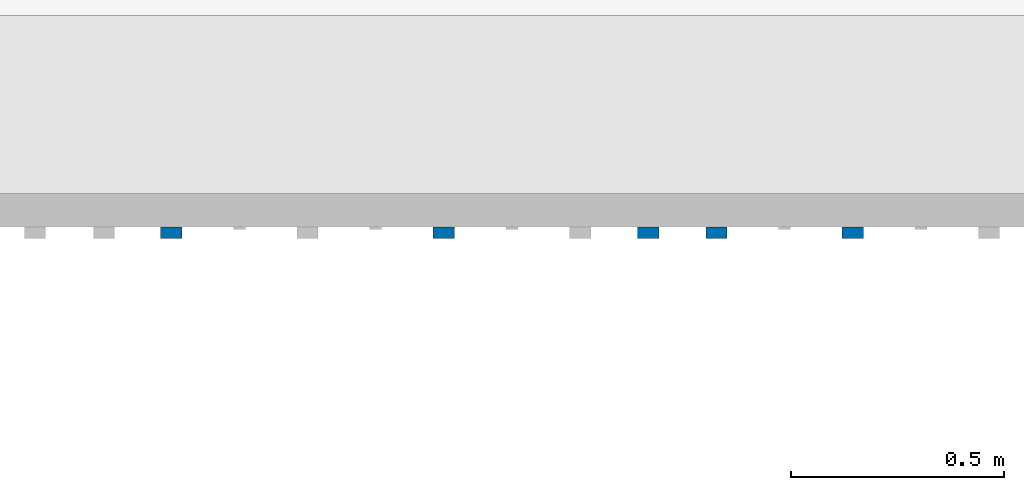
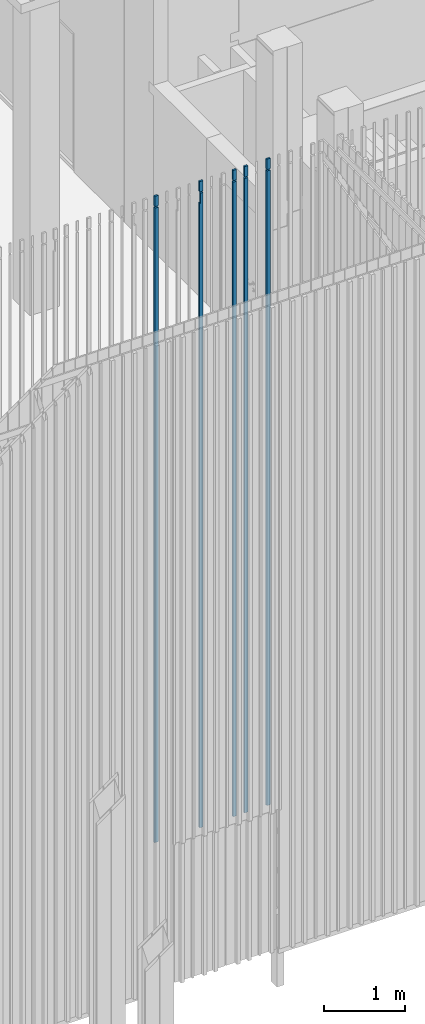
# One storey, part 101 of 390: 5 walls.
"""IFC2X3 building model written with IfcOpenShell, lengths in millimetres."""

from ifc_helpers import new_model, entity, si_unit, converted_unit, derived_unit, money_unit, direction, frame, origin_with_axes, place, context, subcontext, project, spatial, faceted_brep, material, material_list, type_object, element, save


model = new_model("IFC2X3")

# Units and contexts
model_context = context("Model", 3, precision=1e-05, world=origin_with_axes(), true_north=direction((0.0, 1.0)))
body_context = subcontext(model_context, "Body", "Model", "MODEL_VIEW")
ifc_project = project(units=[si_unit("LENGTHUNIT", "METRE", prefix="MILLI"), si_unit("AREAUNIT", "SQUARE_METRE"), si_unit("VOLUMEUNIT", "CUBIC_METRE"), converted_unit("PLANEANGLEUNIT", "DEGREE", entity("IfcPlaneAngleMeasure", 0.0174532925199), si_unit("PLANEANGLEUNIT", "RADIAN"), dimensions=[0, 0, 0, 0, 0, 0, 0]), si_unit("SOLIDANGLEUNIT", "STERADIAN"), money_unit("EUR"), converted_unit("TIMEUNIT", "Year", entity("IfcTimeMeasure", 31556926.0), si_unit("TIMEUNIT", "SECOND"), dimensions=[0, 0, 1, 0, 0, 0, 0]), si_unit("MASSUNIT", "GRAM", prefix="KILO"), si_unit("THERMODYNAMICTEMPERATUREUNIT", "DEGREE_CELSIUS"), si_unit("LUMINOUSINTENSITYUNIT", "LUMEN"), si_unit("ENERGYUNIT", "JOULE", prefix="MEGA"), derived_unit("THERMALCONDUCTANCEUNIT", [(si_unit("POWERUNIT", "WATT"), 1), (si_unit("LENGTHUNIT", "METRE"), -1), (si_unit("THERMODYNAMICTEMPERATUREUNIT", "KELVIN"), -1)]), derived_unit("SPECIFICHEATCAPACITYUNIT", [(si_unit("ENERGYUNIT", "JOULE"), 1), (si_unit("MASSUNIT", "GRAM", prefix="KILO"), -1), (si_unit("THERMODYNAMICTEMPERATUREUNIT", "KELVIN"), -1)]), derived_unit("MASSDENSITYUNIT", [(si_unit("MASSUNIT", "GRAM", prefix="KILO"), 1), (si_unit("VOLUMEUNIT", "CUBIC_METRE"), -1)])], contexts=[model_context])

# Site, building, storey
site_placement = place(None, origin_with_axes())
site = spatial("IfcSite", under=ifc_project, at=site_placement, Name="Site", CompositionType="ELEMENT")
building_placement = place(site_placement, origin_with_axes())
building = spatial("IfcBuilding", under=site, at=building_placement, Name="Building", CompositionType="ELEMENT")
storey_placement = place(building_placement, origin_with_axes())
storey = spatial("IfcBuildingStorey", under=building, at=storey_placement, Name="1 korrus", CompositionType="ELEMENT", Elevation=0.0)

# Walls
ifc_material = material(Name="Site specified")
ifc_material_list = material_list([ifc_material, ifc_material])
wall_type = type_object("IfcWallType", Name="Puitfassaadi ribistik", PredefinedType="NOTDEFINED")
wall_1_placement = place(storey_placement, frame((127583.999994, 45261.0000159, 100.000000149), z_axis=(0.0, 0.0, 1.0), x_axis=(-1.0, 0.0, 0.0)))
element("IfcWall", 1, at=wall_1_placement, inside=storey, type_object=wall_type, material=ifc_material_list, Name="Site specified", context=body_context, shape_type="Brep", body=[
    faceted_brep([(25.0, -1.99989618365, -3.12924797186e-06), (25.0, -1.99999249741, 9591.91726162), (-25.0, -1.99999249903, 9591.91726162), (-25.0, -1.99989618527, -3.12924797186e-06), (25.0, 25.0, 0.0), (25.0, 25.0, 9586.17823605), (-25.0, 25.0, 9586.17823605), (-25.0, 25.0, 0.0)], [[[0, 1, 2, 3]], [[4, 5, 1, 0]], [[5, 6, 2, 1]], [[3, 2, 6, 7]], [[0, 3, 7, 4]], [[7, 6, 5, 4]]]),
    faceted_brep([(-25.0, 25.0, 9764.99999985), (-25.0, 25.0, 9607.64738854), (-25.0, -1.99999249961, 9613.38641411), (-25.0, -1.99999249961, 9764.99999985), (25.0, 25.0, 9764.99999985), (25.0, 25.0, 9607.64738854), (25.0, -1.99999249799, 9613.38641411), (25.0, -1.99999249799, 9764.99999985)], [[[0, 1, 2, 3]], [[4, 5, 1, 0]], [[5, 6, 2, 1]], [[3, 2, 6, 7]], [[3, 7, 4, 0]], [[7, 6, 5, 4]]]),
])
wall_2_placement = place(storey_placement, frame((127743.999994, 45261.0000159, 100.000000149), z_axis=(0.0, 0.0, 1.0), x_axis=(-1.0, 0.0, 0.0)))
element("IfcWall", 2, at=wall_2_placement, inside=storey, type_object=wall_type, material=ifc_material_list, Name="Site specified", context=body_context, shape_type="Brep", body=[
    faceted_brep([(25.0, -1.99989618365, -3.12924797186e-06), (25.0, -1.99999249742, 9591.91726162), (-25.0, -1.99999249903, 9591.91726162), (-25.0, -1.99989618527, -3.12924797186e-06), (25.0, 25.0, 0.0), (25.0, 25.0, 9586.17823605), (-25.0, 25.0, 9586.17823605), (-25.0, 25.0, 0.0)], [[[0, 1, 2, 3]], [[4, 5, 1, 0]], [[5, 6, 2, 1]], [[3, 2, 6, 7]], [[0, 3, 7, 4]], [[7, 6, 5, 4]]]),
    faceted_brep([(-25.0, 25.0, 9764.99999985), (-25.0, 25.0, 9607.64738854), (-25.0, -1.9999924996, 9613.38641411), (-25.0, -1.9999924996, 9764.99999985), (25.0, 25.0, 9764.99999985), (25.0, 25.0, 9607.64738854), (25.0, -1.99999249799, 9613.38641411), (25.0, -1.99999249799, 9764.99999985)], [[[0, 1, 2, 3]], [[4, 5, 1, 0]], [[5, 6, 2, 1]], [[3, 2, 6, 7]], [[3, 7, 4, 0]], [[7, 6, 5, 4]]]),
])
wall_3_placement = place(storey_placement, frame((128063.999994, 45261.0000159, 100.000000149), z_axis=(0.0, 0.0, 1.0), x_axis=(-1.0, 0.0, 0.0)))
element("IfcWall", 3, at=wall_3_placement, inside=storey, type_object=wall_type, material=ifc_material_list, Name="Site specified", context=body_context, shape_type="Brep", body=[
    faceted_brep([(25.0, -1.99989618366, -3.12924797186e-06), (25.0, -1.99999249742, 9591.91726162), (-25.0, -1.99999249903, 9591.91726162), (-25.0, -1.99989618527, -3.12924797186e-06), (25.0, 25.0, 0.0), (25.0, 25.0, 9586.17823605), (-25.0, 25.0, 9586.17823605), (-25.0, 25.0, 0.0)], [[[0, 1, 2, 3]], [[4, 5, 1, 0]], [[5, 6, 2, 1]], [[3, 2, 6, 7]], [[0, 3, 7, 4]], [[7, 6, 5, 4]]]),
    faceted_brep([(-25.0, 25.0, 9764.99999985), (-25.0, 25.0, 9607.64738854), (-25.0, -1.99999249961, 9613.38641411), (-25.0, -1.99999249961, 9764.99999985), (25.0, 25.0, 9764.99999985), (25.0, 25.0, 9607.64738854), (25.0, -1.99999249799, 9613.38641411), (25.0, -1.99999249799, 9764.99999985)], [[[0, 1, 2, 3]], [[4, 5, 1, 0]], [[5, 6, 2, 1]], [[3, 2, 6, 7]], [[3, 7, 4, 0]], [[7, 6, 5, 4]]]),
])
wall_4_placement = place(storey_placement, frame((126463.999994, 45261.0000084, 100.000000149), z_axis=(0.0, 0.0, 1.0), x_axis=(-1.0, 0.0, 0.0)))
element("IfcWall", 4, at=wall_4_placement, inside=storey, type_object=wall_type, material=ifc_material_list, Name="Site specified", context=body_context, shape_type="Brep", body=[
    faceted_brep([(25.0, -1.99990368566, -3.12924797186e-06), (25.0, -1.99999999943, 9591.91726162), (-25.0, -2.00000000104, 9591.91726162), (-25.0, -1.99990368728, -3.12924797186e-06), (25.0, 25.0, 0.0), (25.0, 25.0, 9586.17823446), (-25.0, 25.0, 9586.17823446), (-25.0, 25.0, 0.0)], [[[0, 1, 2, 3]], [[4, 5, 1, 0]], [[5, 6, 2, 1]], [[3, 2, 6, 7]], [[0, 3, 7, 4]], [[7, 6, 5, 4]]]),
    faceted_brep([(-25.0, 25.0, 9764.99999985), (-25.0, 25.0, 9607.64738695), (-25.0, -2.00000000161, 9613.38641411), (-25.0, -2.00000000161, 9764.99999985), (25.0, 25.0, 9764.99999985), (25.0, 25.0, 9607.64738695), (25.0, -2.0, 9613.38641411), (25.0, -2.0, 9764.99999985)], [[[0, 1, 2, 3]], [[4, 5, 1, 0]], [[5, 6, 2, 1]], [[3, 2, 6, 7]], [[3, 7, 4, 0]], [[7, 6, 5, 4]]]),
])
wall_5_placement = place(storey_placement, frame((127103.999994, 45260.9999585, 100.000000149), z_axis=(0.0, 0.0, 1.0), x_axis=(-1.0, 0.0, 0.0)))
element("IfcWall", 5, at=wall_5_placement, inside=storey, type_object=wall_type, material=ifc_material_list, Name="Site specified", context=body_context, shape_type="Brep", body=[
    faceted_brep([(25.0, -1.99995360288, -3.12924797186e-06), (25.0, -2.00004991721, 9438.5673668), (13.9999999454, -2.00004991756, 9438.5673668), (13.9999999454, -1.99980373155, 9591.91841983), (-25.0, -2.00004991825, 9591.91726162), (-25.0, -1.99995360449, -3.12924797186e-06), (25.0, 25.0, 0.0), (25.0, 25.0, 9432.82831507), (13.9999999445, 25.0, 9432.82831507), (13.9999999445, 25.0002433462, 9586.1793687), (-25.0, 25.0, 9586.17822384), (-25.0, 25.0, 0.0)], [[[0, 1, 2, 3, 4, 5]], [[6, 7, 1, 0]], [[8, 2, 1, 7]], [[8, 9, 3, 2]], [[4, 3, 9, 10]], [[11, 5, 4, 10]], [[6, 0, 5, 11]], [[9, 8, 7, 6, 11, 10]]]),
    faceted_brep([(-25.0, 25.0, 9764.99999985), (-25.0, 25.0, 9607.64737634), (-25.0, -2.00004991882, 9613.38641411), (-25.0, -2.00004991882, 9764.99999985), (25.0, 25.0, 9764.99999985), (25.0, 25.0, 9607.64737634), (25.0, -2.00004991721, 9613.38641411), (25.0, -2.00004991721, 9764.99999985)], [[[0, 1, 2, 3]], [[4, 5, 1, 0]], [[5, 6, 2, 1]], [[3, 2, 6, 7]], [[3, 7, 4, 0]], [[7, 6, 5, 4]]]),
])

save(model, "model.ifc")
